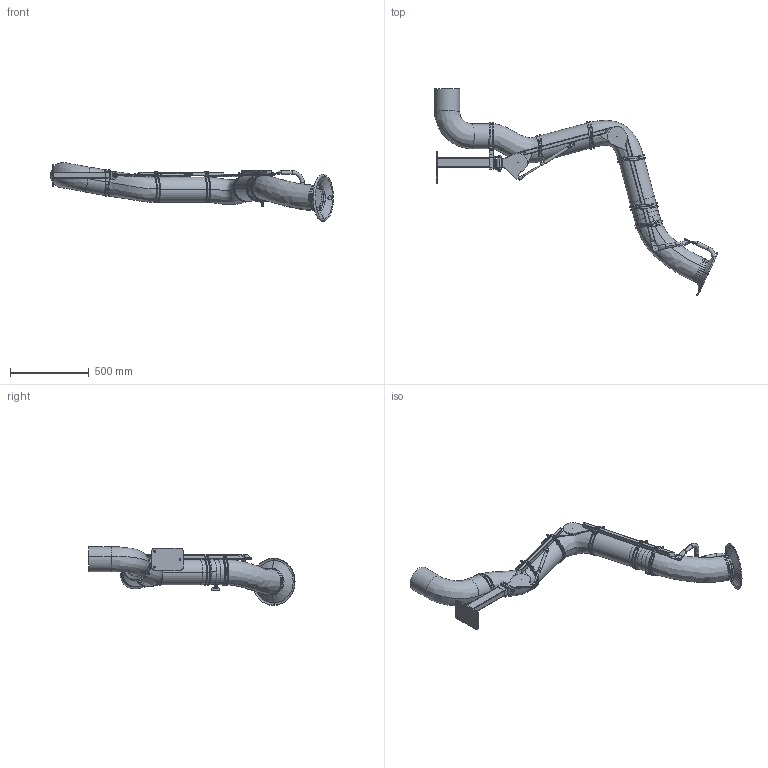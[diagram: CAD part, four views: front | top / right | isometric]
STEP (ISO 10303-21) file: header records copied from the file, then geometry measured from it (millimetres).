
FILE_DESCRIPTION((''),'2;1');
FILE_NAME('PSR_2000-160_D_EXC','2022-10-04T13:18:18',('Tomas Bellgran'),(''),'CREO PARAMETRIC BY PTC INC, 2018260','CREO PARAMETRIC BY PTC INC, 2018260','');
FILE_SCHEMA(('AUTOMOTIVE_DESIGN { 1 0 10303 214 1 1 1 1 }'));
Length unit declared in the file: millimetre
Products named in the file (45): 141554; 141580; 141581; 122701; 141512; 141556; 141582; 141587; 141522; 121391; 131150; 139382; 131151; 131172; 144356; 141589; 134343_AF0; G_P136_WELD-REF; 141590; 122717_LIGHT; 120127_COMPL_LIGHT; 130315; ROD_STAB_8-160-REF; 131095; 130320_AF31; 131145; 139631; 139616; 139615; 139614; 139628; 131207; 122291; 122295; 131217; 131219; 131222; 131202; 121062; 121074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
Assembly tree (60 placements, depth 4):
  PSR_2000-160_D_EXC
    141512
      141554
      141580
      141581
      122701
    141522
      141556
      141582
      141587
    121391  x4
    131150
    131172
      139382
      131151
    144356  x2
    141590
      141589
      134343_AF0
      G_P136_WELD-REF
    122717_LIGHT
    120127_COMPL_LIGHT
    130320_AF31
      130315
      ROD_STAB_8-160-REF
      131095  x2
    131145  x2
    139628
      139631  x3
      139616
      139615
      139614
    131202
      131207
      122295
        122291
      131222
        131217
        131219
    121062
    121074
    124460  x5
    107523-11  x5
    121000_LIGHT
    107523-20
Bounding box: 1795.26 x 1307.27 x 372.74 mm (x, y, z)
Volume: 53046464.7 mm3; surface area: 2268556.7 mm2
Topology: 51 solids, 51 shells, 1169 faces, 2774 edges, 1709 vertices
Faces by surface type: plane 419, cylinder 358, bspline 222, torus 76, cone 56, extrusion 23, revolution 13, sphere 2
Entity records: 46111 total; most frequent: CARTESIAN_POINT 17101, DIRECTION 3601, ORIENTED_EDGE 3388, PRESENTATION_STYLE_ASSIGNMENT 2396, STYLED_ITEM 2369, CURVE_STYLE 1722, EDGE_CURVE 1694, AXIS2_PLACEMENT_3D 1410
